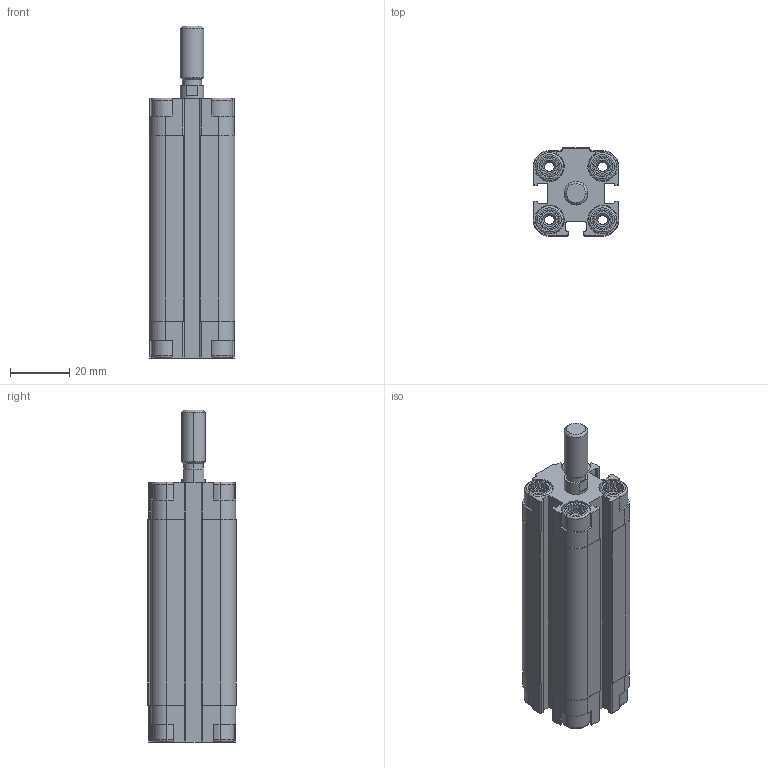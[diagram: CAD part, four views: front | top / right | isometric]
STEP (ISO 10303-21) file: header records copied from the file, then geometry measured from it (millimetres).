
FILE_DESCRIPTION (( 'STEP AP203' ), '1' );
FILE_NAME ('CDVU16-50.STEP', '2020-03-18T10:34:59', ( '' ), ( '' ), 'SwSTEP 2.0', 'SolidWorks 2019', '' );
FILE_SCHEMA (( 'CONFIG_CONTROL_DESIGN' ));
Length unit declared in the file: millimetre
Products named in the file (1): CDVU16-50
Bounding box: 29 x 30 x 112.5 mm (x, y, z)
Volume: 48631.2 mm3; surface area: 28172.2 mm2
Topology: 2 solids, 2 shells, 553 faces, 1472 edges, 958 vertices
Faces by surface type: plane 333, cylinder 158, cone 46, torus 16
Entity records: 17381 total; most frequent: CARTESIAN_POINT 3556, ORIENTED_EDGE 2936, DIRECTION 2776, EDGE_CURVE 1468, VERTEX_POINT 958, AXIS2_PLACEMENT_3D 946, LINE 884, VECTOR 884
